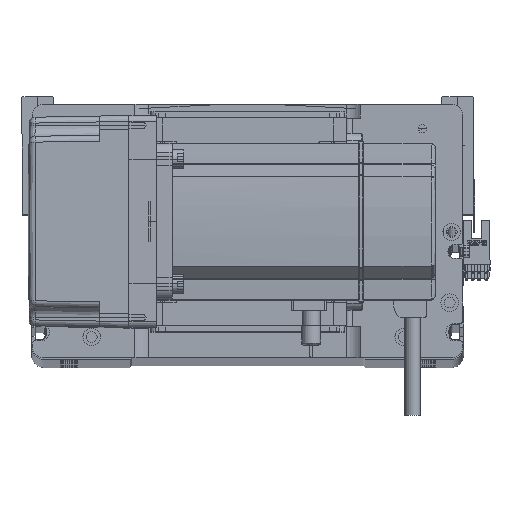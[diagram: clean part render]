
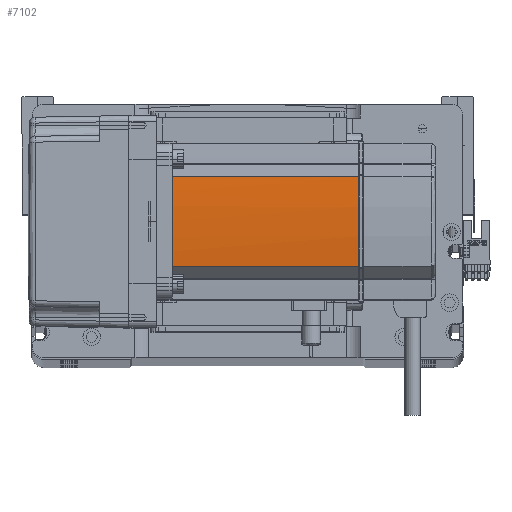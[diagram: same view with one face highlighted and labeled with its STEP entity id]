
A CAD part, top view. The second image highlights one B-rep face of the part: STEP entity #7102.
In plain terms, the highlighted cylindrical face has radius 270 mm (diameter 540 mm), a partial arc.
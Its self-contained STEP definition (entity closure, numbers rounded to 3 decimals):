
#99 = CARTESIAN_POINT ( 'NONE',  ( 39.042, 22.724, 39. ) ) ;
#1293 = EDGE_CURVE ( 'NONE', #42957, #34171, #50795, .T. ) ;
#3400 = AXIS2_PLACEMENT_3D ( 'NONE', #36864, #54792, #7015 ) ;
#3762 = CARTESIAN_POINT ( 'NONE',  ( 39.042, -22.724, 39. ) ) ;
#3993 = ORIENTED_EDGE ( 'NONE', *, *, #33399, .F. ) ;
#5386 = CIRCLE ( 'NONE', #3400, 270. ) ;
#7015 = DIRECTION ( 'NONE',  ( -1., 0., 0. ) ) ;
#7067 = AXIS2_PLACEMENT_3D ( 'NONE', #28627, #49878, #24128 ) ;
#7102 = ADVANCED_FACE ( 'NONE', ( #7466 ), #52229, .T. ) ;
#7466 = FACE_OUTER_BOUND ( 'NONE', #34796, .T. ) ;
#8665 = CARTESIAN_POINT ( 'NONE',  ( 39.042, 22.724, 58. ) ) ;
#11301 = VERTEX_POINT ( 'NONE', #21920 ) ;
#12281 = CARTESIAN_POINT ( 'NONE',  ( 39.042, -22.724, 134. ) ) ;
#13217 = EDGE_CURVE ( 'NONE', #54880, #34171, #31092, .T. ) ;
#13235 = ORIENTED_EDGE ( 'NONE', *, *, #1293, .F. ) ;
#14127 = CARTESIAN_POINT ( 'NONE',  ( 40., 0.127, 134. ) ) ;
#14503 = CARTESIAN_POINT ( 'NONE',  ( 40., 0.042, 134. ) ) ;
#14750 = ORIENTED_EDGE ( 'NONE', *, *, #34066, .T. ) ;
#16797 = DIRECTION ( 'NONE',  ( 0., 0., -1. ) ) ;
#18328 = CARTESIAN_POINT ( 'NONE',  ( 39.042, -22.724, 58. ) ) ;
#19290 = LINE ( 'NONE', #8665, #20010 ) ;
#20010 = VECTOR ( 'NONE', #25957, 1000. ) ;
#20324 = DIRECTION ( 'NONE',  ( -1., 0., 0. ) ) ;
#21175 = DIRECTION ( 'NONE',  ( -1., 0., 0. ) ) ;
#21920 = CARTESIAN_POINT ( 'NONE',  ( 39.042, 22.724, 134. ) ) ;
#23482 = CARTESIAN_POINT ( 'NONE',  ( 40., -0.042, 134. ) ) ;
#24128 = DIRECTION ( 'NONE',  ( -1., 0., 0. ) ) ;
#25957 = DIRECTION ( 'NONE',  ( 0., 0., 1. ) ) ;
#27052 = CARTESIAN_POINT ( 'NONE',  ( 40., -0.127, 134. ) ) ;
#28044 = ORIENTED_EDGE ( 'NONE', *, *, #13217, .T. ) ;
#28627 = CARTESIAN_POINT ( 'NONE',  ( -230., 0., 39. ) ) ;
#30605 = EDGE_CURVE ( 'NONE', #42957, #11301, #19290, .T. ) ;
#31092 = LINE ( 'NONE', #18328, #36554 ) ;
#33399 = EDGE_CURVE ( 'NONE', #46106, #35824, #45247, .T. ) ;
#34066 = EDGE_CURVE ( 'NONE', #46106, #54880, #5386, .T. ) ;
#34171 = VERTEX_POINT ( 'NONE', #3762 ) ;
#34796 = EDGE_LOOP ( 'NONE', ( #28044, #13235, #36910, #46942, #3993, #14750 ) ) ;
#35139 = CIRCLE ( 'NONE', #52766, 270. ) ;
#35412 = DIRECTION ( 'NONE',  ( 0., 0., -1. ) ) ;
#35824 = VERTEX_POINT ( 'NONE', #44955 ) ;
#36554 = VECTOR ( 'NONE', #35412, 1000. ) ;
#36864 = CARTESIAN_POINT ( 'NONE',  ( -230., 0., 134. ) ) ;
#36910 = ORIENTED_EDGE ( 'NONE', *, *, #30605, .T. ) ;
#37543 = AXIS2_PLACEMENT_3D ( 'NONE', #46280, #50970, #20324 ) ;
#42957 = VERTEX_POINT ( 'NONE', #99 ) ;
#44955 = CARTESIAN_POINT ( 'NONE',  ( 40., 0.127, 134. ) ) ;
#45247 = B_SPLINE_CURVE_WITH_KNOTS ( 'NONE', 3,
 ( #27052, #23482, #14503, #14127 ),
 .UNSPECIFIED., .F., .F.,
 ( 4, 4 ),
 ( 0., 1. ),
 .UNSPECIFIED. ) ;
#46042 = CARTESIAN_POINT ( 'NONE',  ( 40., -0.127, 134. ) ) ;
#46106 = VERTEX_POINT ( 'NONE', #46042 ) ;
#46280 = CARTESIAN_POINT ( 'NONE',  ( -230., 0., 58. ) ) ;
#46942 = ORIENTED_EDGE ( 'NONE', *, *, #50438, .T. ) ;
#49878 = DIRECTION ( 'NONE',  ( 0., 0., -1. ) ) ;
#50438 = EDGE_CURVE ( 'NONE', #11301, #35824, #35139, .T. ) ;
#50795 = CIRCLE ( 'NONE', #7067, 270. ) ;
#50970 = DIRECTION ( 'NONE',  ( 0., 0., -1. ) ) ;
#52229 = CYLINDRICAL_SURFACE ( 'NONE', #37543, 270. ) ;
#52766 = AXIS2_PLACEMENT_3D ( 'NONE', #55410, #16797, #21175 ) ;
#54792 = DIRECTION ( 'NONE',  ( 0., 0., -1. ) ) ;
#54880 = VERTEX_POINT ( 'NONE', #12281 ) ;
#55410 = CARTESIAN_POINT ( 'NONE',  ( -230., 0., 134. ) ) ;
